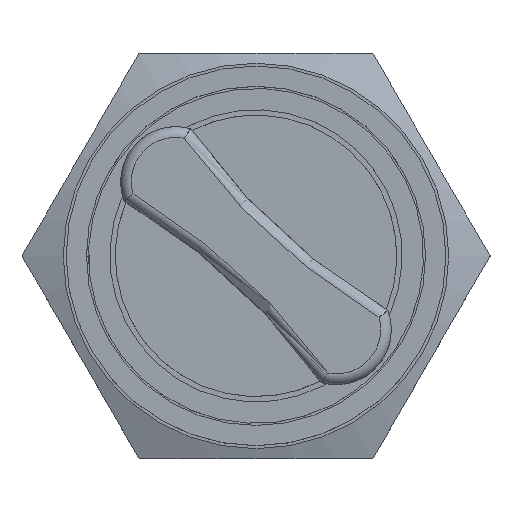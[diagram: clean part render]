
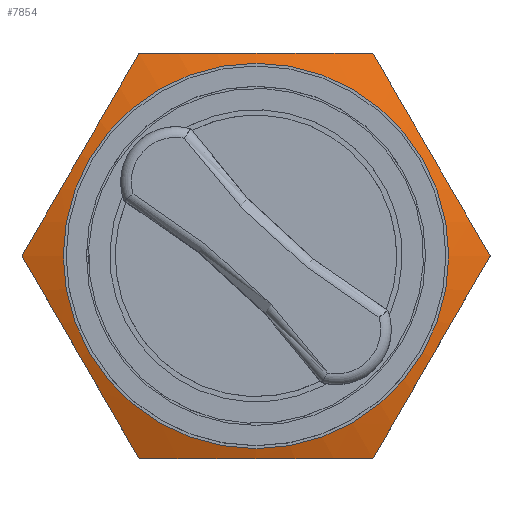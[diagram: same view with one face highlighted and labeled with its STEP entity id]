
A CAD part, top view. The second image highlights one B-rep face of the part: STEP entity #7854.
In plain terms, the highlighted conical face has half-angle 70.116 degrees and reference radius 10.97 mm.
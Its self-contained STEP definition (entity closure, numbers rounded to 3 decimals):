
#5755=CONICAL_SURFACE('',#23956,10.97,70.116);
#5803=B_SPLINE_CURVE_WITH_KNOTS('',3,(#32464,#32465,#32466,#32467,#32468),
 .UNSPECIFIED.,.F.,.F.,(4,1,4),(0.,0.5,1.),.UNSPECIFIED.);
#5805=B_SPLINE_CURVE_WITH_KNOTS('',3,(#32478,#32479,#32480,#32481,#32482),
 .UNSPECIFIED.,.F.,.F.,(4,1,4),(0.,0.5,1.),.UNSPECIFIED.);
#5807=B_SPLINE_CURVE_WITH_KNOTS('',3,(#32492,#32493,#32494,#32495,#32496),
 .UNSPECIFIED.,.F.,.F.,(4,1,4),(0.,0.5,1.),.UNSPECIFIED.);
#5809=B_SPLINE_CURVE_WITH_KNOTS('',3,(#32506,#32507,#32508,#32509,#32510),
 .UNSPECIFIED.,.F.,.F.,(4,1,4),(0.,0.5,1.),.UNSPECIFIED.);
#5811=B_SPLINE_CURVE_WITH_KNOTS('',3,(#32520,#32521,#32522,#32523,#32524),
 .UNSPECIFIED.,.F.,.F.,(4,1,4),(0.,0.5,1.),.UNSPECIFIED.);
#5813=B_SPLINE_CURVE_WITH_KNOTS('',3,(#32531,#32532,#32533,#32534,#32535),
 .UNSPECIFIED.,.F.,.F.,(4,1,4),(0.,0.5,1.),.UNSPECIFIED.);
#7854=ADVANCED_FACE('',(#12689,#12690),#5755,.T.);
#12689=FACE_BOUND('',#13227,.T.);
#12690=FACE_BOUND('',#13228,.T.);
#13227=EDGE_LOOP('',(#16333));
#13228=EDGE_LOOP('',(#16334,#16335,#16336,#16337,#16338,#16339));
#16333=ORIENTED_EDGE('',*,*,#21922,.T.);
#16334=ORIENTED_EDGE('',*,*,#21920,.F.);
#16335=ORIENTED_EDGE('',*,*,#21918,.F.);
#16336=ORIENTED_EDGE('',*,*,#21915,.F.);
#16337=ORIENTED_EDGE('',*,*,#21912,.F.);
#16338=ORIENTED_EDGE('',*,*,#21909,.F.);
#16339=ORIENTED_EDGE('',*,*,#21906,.F.);
#19792=VERTEX_POINT('',#32455);
#19794=VERTEX_POINT('',#32463);
#19796=VERTEX_POINT('',#32472);
#19798=VERTEX_POINT('',#32486);
#19800=VERTEX_POINT('',#32500);
#19802=VERTEX_POINT('',#32514);
#19804=VERTEX_POINT('',#32541);
#21906=EDGE_CURVE('',#19794,#19792,#5803,.T.);
#21909=EDGE_CURVE('',#19792,#19796,#5805,.T.);
#21912=EDGE_CURVE('',#19796,#19798,#5807,.T.);
#21915=EDGE_CURVE('',#19798,#19800,#5809,.T.);
#21918=EDGE_CURVE('',#19800,#19802,#5811,.T.);
#21920=EDGE_CURVE('',#19802,#19794,#5813,.T.);
#21922=EDGE_CURVE('',#19804,#19804,#23197,.T.);
#23197=CIRCLE('',#23955,9.034);
#23955=AXIS2_PLACEMENT_3D('',#32540,#26959,#26960);
#23956=AXIS2_PLACEMENT_3D('',#32542,#26961,#26962);
#26959=DIRECTION('',(0.,0.,-1.));
#26960=DIRECTION('',(-1.,0.,0.));
#26961=DIRECTION('',(0.,0.,-1.));
#26962=DIRECTION('',(1.,0.,0.));
#32455=CARTESIAN_POINT('',(5.435,9.51,-1.5));
#32463=CARTESIAN_POINT('',(-5.535,9.51,-1.5));
#32464=CARTESIAN_POINT('',(-5.535,9.51,-1.5));
#32465=CARTESIAN_POINT('',(-3.707,9.51,-1.169));
#32466=CARTESIAN_POINT('',(-0.05,9.51,-0.768));
#32467=CARTESIAN_POINT('',(3.607,9.51,-1.169));
#32468=CARTESIAN_POINT('',(5.435,9.51,-1.5));
#32472=CARTESIAN_POINT('',(10.92,0.01,-1.5));
#32478=CARTESIAN_POINT('',(5.435,9.51,-1.5));
#32479=CARTESIAN_POINT('',(6.349,7.927,-1.169));
#32480=CARTESIAN_POINT('',(8.177,4.76,-0.768));
#32481=CARTESIAN_POINT('',(10.006,1.593,-1.169));
#32482=CARTESIAN_POINT('',(10.92,0.01,-1.5));
#32486=CARTESIAN_POINT('',(5.435,-9.49,-1.5));
#32492=CARTESIAN_POINT('',(10.92,0.01,-1.5));
#32493=CARTESIAN_POINT('',(10.006,-1.573,-1.169));
#32494=CARTESIAN_POINT('',(8.177,-4.74,-0.768));
#32495=CARTESIAN_POINT('',(6.349,-7.907,-1.169));
#32496=CARTESIAN_POINT('',(5.435,-9.49,-1.5));
#32500=CARTESIAN_POINT('',(-5.535,-9.49,-1.5));
#32506=CARTESIAN_POINT('',(5.435,-9.49,-1.5));
#32507=CARTESIAN_POINT('',(3.607,-9.49,-1.169));
#32508=CARTESIAN_POINT('',(-0.05,-9.49,-0.768));
#32509=CARTESIAN_POINT('',(-3.707,-9.49,-1.169));
#32510=CARTESIAN_POINT('',(-5.535,-9.49,-1.5));
#32514=CARTESIAN_POINT('',(-11.02,0.01,-1.5));
#32520=CARTESIAN_POINT('',(-5.535,-9.49,-1.5));
#32521=CARTESIAN_POINT('',(-6.449,-7.907,-1.169));
#32522=CARTESIAN_POINT('',(-8.277,-4.74,-0.768));
#32523=CARTESIAN_POINT('',(-10.106,-1.573,-1.169));
#32524=CARTESIAN_POINT('',(-11.02,0.01,-1.5));
#32531=CARTESIAN_POINT('',(-11.02,0.01,-1.5));
#32532=CARTESIAN_POINT('',(-10.106,1.593,-1.169));
#32533=CARTESIAN_POINT('',(-8.277,4.76,-0.768));
#32534=CARTESIAN_POINT('',(-6.449,7.927,-1.169));
#32535=CARTESIAN_POINT('',(-5.535,9.51,-1.5));
#32540=CARTESIAN_POINT('',(-0.05,0.01,-0.8));
#32541=CARTESIAN_POINT('',(-9.084,0.01,-0.8));
#32542=CARTESIAN_POINT('',(-0.05,0.01,-1.5));
